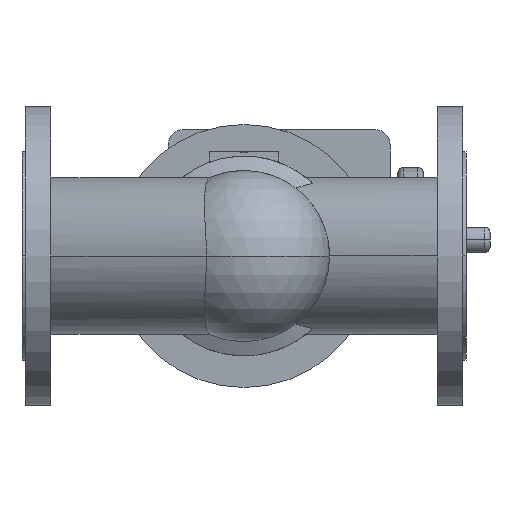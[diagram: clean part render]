
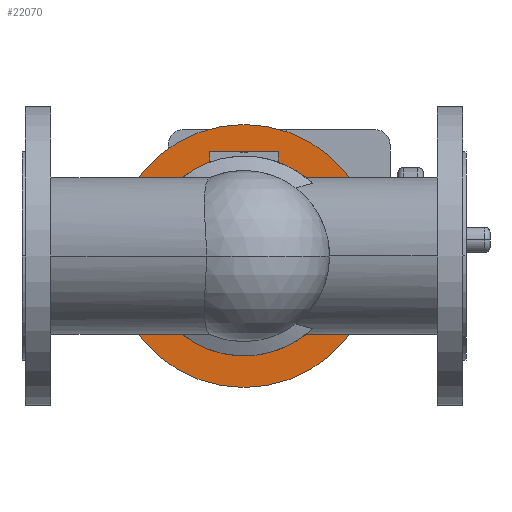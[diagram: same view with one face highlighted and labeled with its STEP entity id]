
A CAD part, front view. The second image highlights one B-rep face of the part: STEP entity #22070.
In plain terms, the highlighted planar face has unit normal (0, -1, 0).
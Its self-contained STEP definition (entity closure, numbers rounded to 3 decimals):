
#1340=CARTESIAN_POINT('',(318.5,114.2,0.));
#1350=VERTEX_POINT('',#1340);
#1400=CARTESIAN_POINT('',(200.,114.2,0.));
#1410=DIRECTION('',(0.,-1.,0.));
#1420=DIRECTION('',(-1.,0.,0.));
#1430=AXIS2_PLACEMENT_3D('',#1400,#1410,#1420);
#1440=CIRCLE('',#1430,118.5);
#1450=CARTESIAN_POINT('',(81.5,114.2,0.));
#1460=VERTEX_POINT('',#1450);
#1470=EDGE_CURVE('',#1350,#1460,#1440,.T.);
#1780=CARTESIAN_POINT('',(110.,114.2,0.));
#1790=VERTEX_POINT('',#1780);
#1820=CARTESIAN_POINT('',(200.,114.2,0.));
#1830=DIRECTION('',(0.,-1.,0.));
#1840=DIRECTION('',(-1.,0.,0.));
#1850=AXIS2_PLACEMENT_3D('',#1820,#1830,#1840);
#1860=CIRCLE('',#1850,90.);
#1870=CARTESIAN_POINT('',(290.,114.2,0.));
#1880=VERTEX_POINT('',#1870);
#1890=EDGE_CURVE('',#1880,#1790,#1860,.T.);
#21920=CARTESIAN_POINT('',(95.75,114.2,0.));
#21930=DIRECTION('',(0.,-1.,0.));
#21940=DIRECTION('',(-1.,0.,0.));
#21950=AXIS2_PLACEMENT_3D('',#21920,#21930,#21940);
#21960=PLANE('',#21950);
#21970=EDGE_CURVE('',#1790,#1880,#1860,.T.);
#21980=ORIENTED_EDGE('',*,*,#21970,.F.);
#21990=ORIENTED_EDGE('',*,*,#1890,.F.);
#22000=EDGE_LOOP('',(#21990,#21980));
#22010=FACE_BOUND('',#22000,.T.);
#22020=ORIENTED_EDGE('',*,*,#1470,.T.);
#22030=EDGE_CURVE('',#1460,#1350,#1440,.T.);
#22040=ORIENTED_EDGE('',*,*,#22030,.T.);
#22050=EDGE_LOOP('',(#22040,#22020));
#22060=FACE_OUTER_BOUND('',#22050,.T.);
#22070=ADVANCED_FACE('',(#22010,#22060),#21960,.T.);
